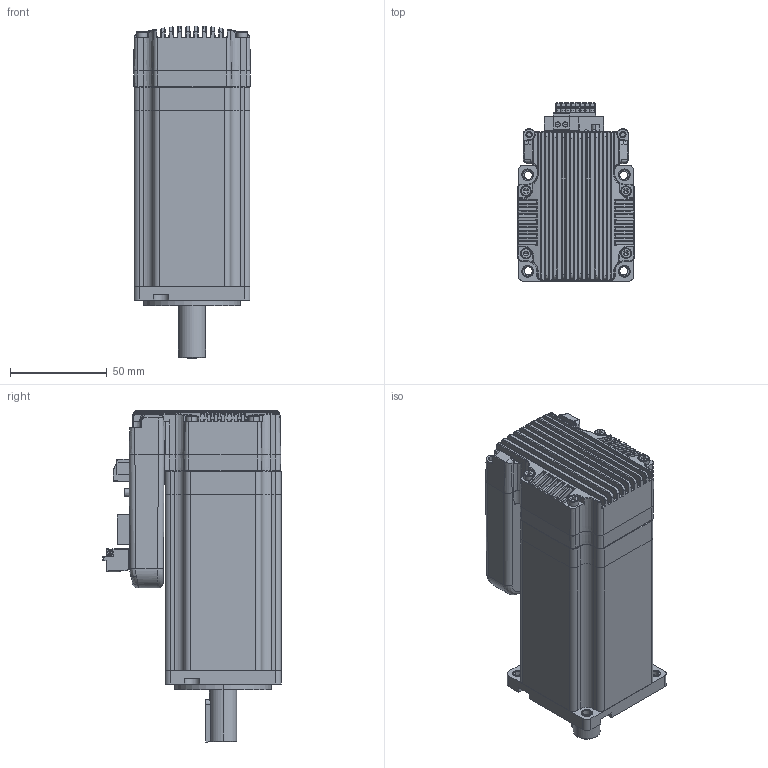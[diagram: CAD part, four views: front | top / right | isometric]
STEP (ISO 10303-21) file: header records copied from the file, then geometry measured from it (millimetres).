
FILE_DESCRIPTION (( 'STEP AP203' ), '1' );
FILE_NAME ('iHSV60-30-40-48-RC .STEP', '2019-09-29T10:03:49', ( 'USER-' ), ( 'MS' ), 'SwSTEP 2.0', 'SolidWorks 2015', '' );
FILE_SCHEMA (( 'CONFIG_CONTROL_DESIGN' ));
Length unit declared in the file: millimetre
Products named in the file (12): iHSV60-30-40-48-RC ; iHSV60-400W儂旯; M3x10囀鞠褒蹟佪 GB_GB_FASTENER_SCREWS_HSHCS M3X10-S; 60菁裔; 2pins RC FAMLE; 2pins 蹟佪芛; 2pins RC connect asmb; 60珨极趙菁裔; 60侜督奻裔 14mm 粣; 60一体化散热器; 5x5x22mm す傷; 总线一体化PCB配合体
Assembly tree (17 placements, depth 3):
  iHSV60-30-40-48-RC 
    60珨极趙菁裔
    60一体化散热器
    总线一体化PCB配合体
    iHSV60-400W儂旯
    M3x10囀鞠褒蹟佪 GB_GB_FASTENER_SCREWS_HSHCS M3X10-S  x4
    60菁裔
    2pins RC connect asmb
      2pins RC FAMLE
      2pins 蹟佪芛  x4
    60侜督奻裔 14mm 粣
    5x5x22mm す傷
Bounding box: 60.4 x 92.1 x 171.75 mm (x, y, z)
Volume: 424427.7 mm3; surface area: 123378.4 mm2
Topology: 16 solids, 73 shells, 2770 faces, 7707 edges, 4990 vertices
Faces by surface type: plane 1077, cylinder 837, cone 639, bspline 212, sphere 5
Entity records: 87988 total; most frequent: CARTESIAN_POINT 32502, ORIENTED_EDGE 11376, DIRECTION 10262, EDGE_CURVE 6263, VERTEX_POINT 4201, VECTOR 3902, LINE 3902, AXIS2_PLACEMENT_3D 3180
